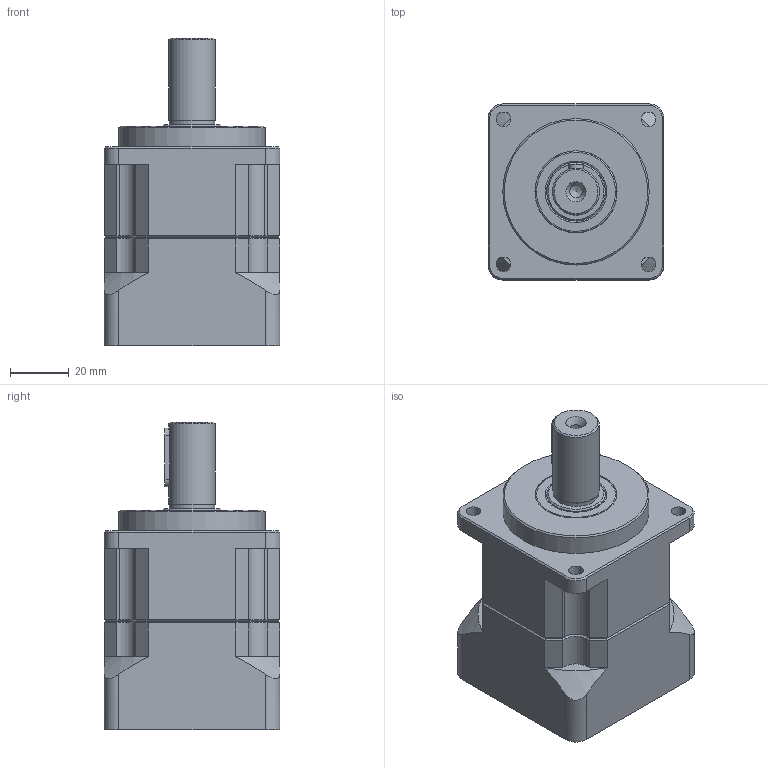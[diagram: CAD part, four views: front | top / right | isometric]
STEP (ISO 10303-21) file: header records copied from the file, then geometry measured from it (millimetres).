
FILE_DESCRIPTION (( 'STEP AP203' ), '1' );
FILE_NAME ('JHP60.STEP', '2015-02-26T06:12:55', ( 'wang' ), ( '' ), 'SwSTEP 2.0', 'SolidWorks 2013', '' );
FILE_SCHEMA (( 'CONFIG_CONTROL_DESIGN' ));
Products named in the file (1): JHP60
Bounding box: 60 x 60 x 105 mm (x, y, z)
Volume: 164784.7 mm3; surface area: 58065.4 mm2
Topology: 11 solids, 11 shells, 743 faces, 2016 edges, 1318 vertices
Faces by surface type: bspline 312, cylinder 239, plane 143, cone 39, torus 10
Full cylindrical faces by diameter (mm): 3 x1, 4 x2, 4.2 x1, 5 x17, 7 x1, 8.363 x1, 9 x3, 11 x1, 15.6 x1, 16 x1, 17.5 x1, 19.6 x1, 20 x2, 22 x1, 26 x1, 28 x2, 30 x1, 35 x2, 40 x1, 42 x2, 43.4 x1, 45 x1, 46.5 x1, 47 x1, 48 x1, 50 x2
Entity records: 78578 total; most frequent: CARTESIAN_POINT 64008, ORIENTED_EDGE 3822, DIRECTION 2153, EDGE_CURVE 1911, VERTEX_POINT 1296, AXIS2_PLACEMENT_3D 943, EDGE_LOOP 889, FACE_OUTER_BOUND 803
